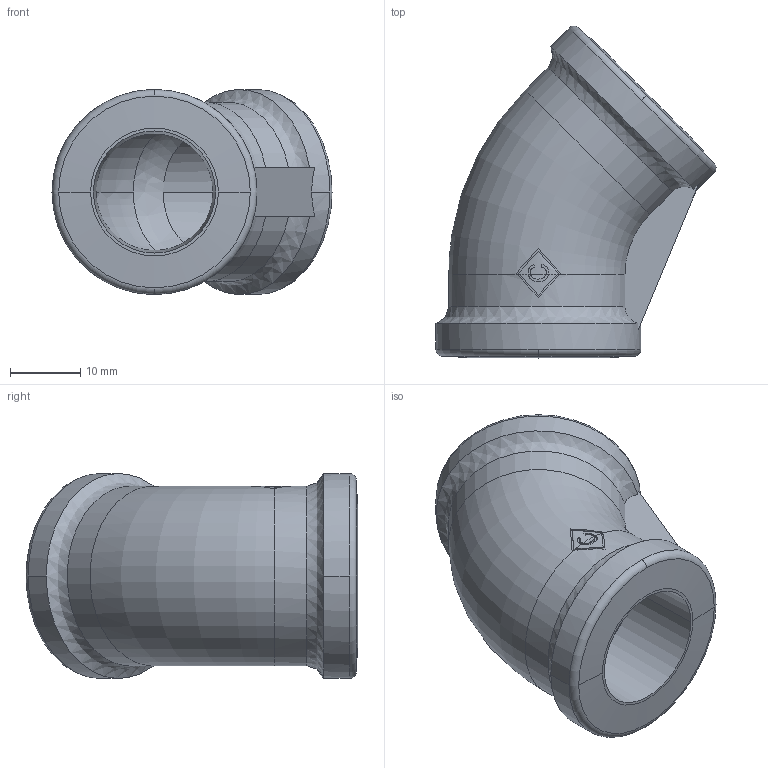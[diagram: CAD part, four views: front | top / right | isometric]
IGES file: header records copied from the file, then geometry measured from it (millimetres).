
Global section: file name: No Iges File Name specified; native system: AutoDesk Inventor R12.0; preprocessor: AutoDesk Inventor Iges Exporter R12.0; date: 20090916.102537; units: millimetre
Bounding box: 39.89 x 47.27 x 29.2 mm (x, y, z)
Volume: 12761.8 mm3; surface area: 7168.1 mm2
Topology: 1 solids, 1 shells, 56 faces, 162 edges, 108 vertices
Faces by surface type: plane 15, bspline 12, cylinder 10, torus 9, revolution 6, cone 4
